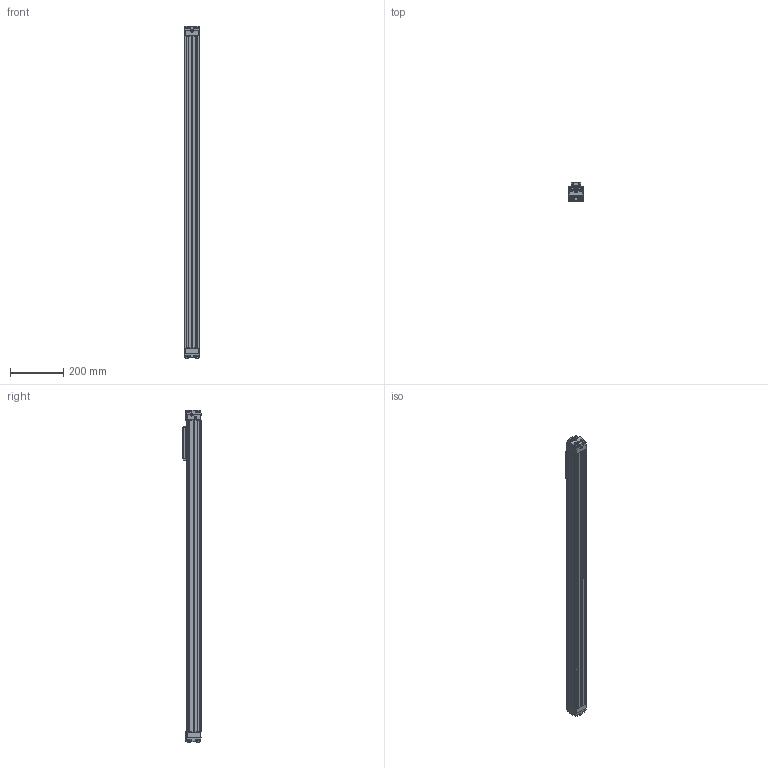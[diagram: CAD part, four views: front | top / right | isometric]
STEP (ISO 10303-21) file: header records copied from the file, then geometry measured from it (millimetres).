
FILE_DESCRIPTION (( 'STEP AP203' ), '1' );
FILE_NAME ('MXP32N_ST_SM1000.000_MXP-484981-1.step', '2025-03-30T18:01:31', ( '' ), ( '' ), 'SwSTEP 2.0', 'SolidWorks 2024', '' );
FILE_SCHEMA (( 'CONFIG_CONTROL_DESIGN' ));
Length unit declared in the file: inch
Products named in the file (3): MXP32N_ST_SM1000.000_MXP-484981-1; Base_MXP32N_ST_SM1000.000_MXP-484981-1; 81329000_MXP32N_ST_SM1000.000_MXP-484981-1
Assembly tree (2 placements, depth 2):
  MXP32N_ST_SM1000.000_MXP-484981-1
    81329000_MXP32N_ST_SM1000.000_MXP-484981-1
    Base_MXP32N_ST_SM1000.000_MXP-484981-1
Bounding box: 55.37 x 67.79 x 1249 mm (x, y, z)
Volume: 2650490.9 mm3; surface area: 552846.8 mm2
Topology: 2 solids, 8 shells, 959 faces, 2387 edges, 1486 vertices
Faces by surface type: plane 450, cylinder 276, cone 133, torus 40, sphere 40, bspline 20
Full cylindrical faces by diameter (mm): 4.2 x8, 4.318 x2, 5 x8, 5.5 x4, 6.4 x4, 7 x2, 7.56 x2, 7.9 x9, 8.41 x1, 17 x8, 31.7 x1, 31.75 x1
Entity records: 28789 total; most frequent: CARTESIAN_POINT 6606, DIRECTION 4564, ORIENTED_EDGE 4424, EDGE_CURVE 2212, AXIS2_PLACEMENT_3D 1656, VERTEX_POINT 1438, VECTOR 1252, LINE 1252
